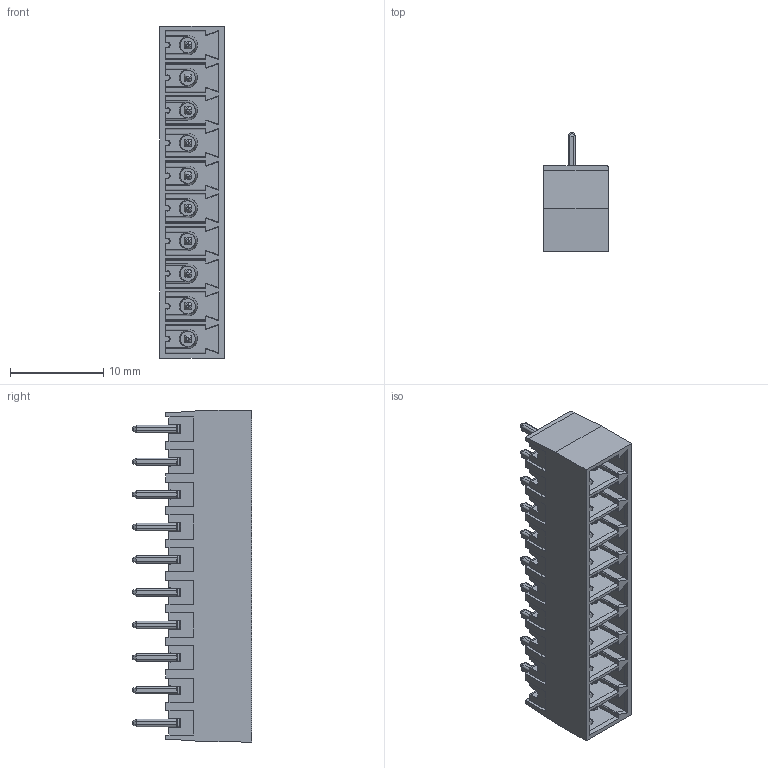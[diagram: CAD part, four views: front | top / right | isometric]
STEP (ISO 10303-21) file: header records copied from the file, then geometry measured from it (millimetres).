
FILE_DESCRIPTION (( 'STEP AP214' ), '1' );
FILE_NAME ('110-M-121-10.STEP', '2007-11-20T03:30:14', ( ' ' ), ( '' ), 'SwSTEP 2.0', 'SolidWorks 2007', '' );
FILE_SCHEMA (( 'AUTOMOTIVE_DESIGN' ));
Length unit declared in the file: millimetre
Products named in the file (1): 110-M-121-10
Bounding box: 6.9 x 12.8 x 35.6 mm (x, y, z)
Volume: 934.1 mm3; surface area: 3318.2 mm2
Topology: 1 solids, 1 shells, 1641 faces, 5019 edges, 3220 vertices
Faces by surface type: plane 1090, cylinder 491, cone 60
Entity records: 58668 total; most frequent: CARTESIAN_POINT 18103, ORIENTED_EDGE 10038, DIRECTION 6161, EDGE_CURVE 5019, VERTEX_POINT 3220, VECTOR 2713, LINE 2713, B_SPLINE_CURVE_WITH_KNOTS 2224
